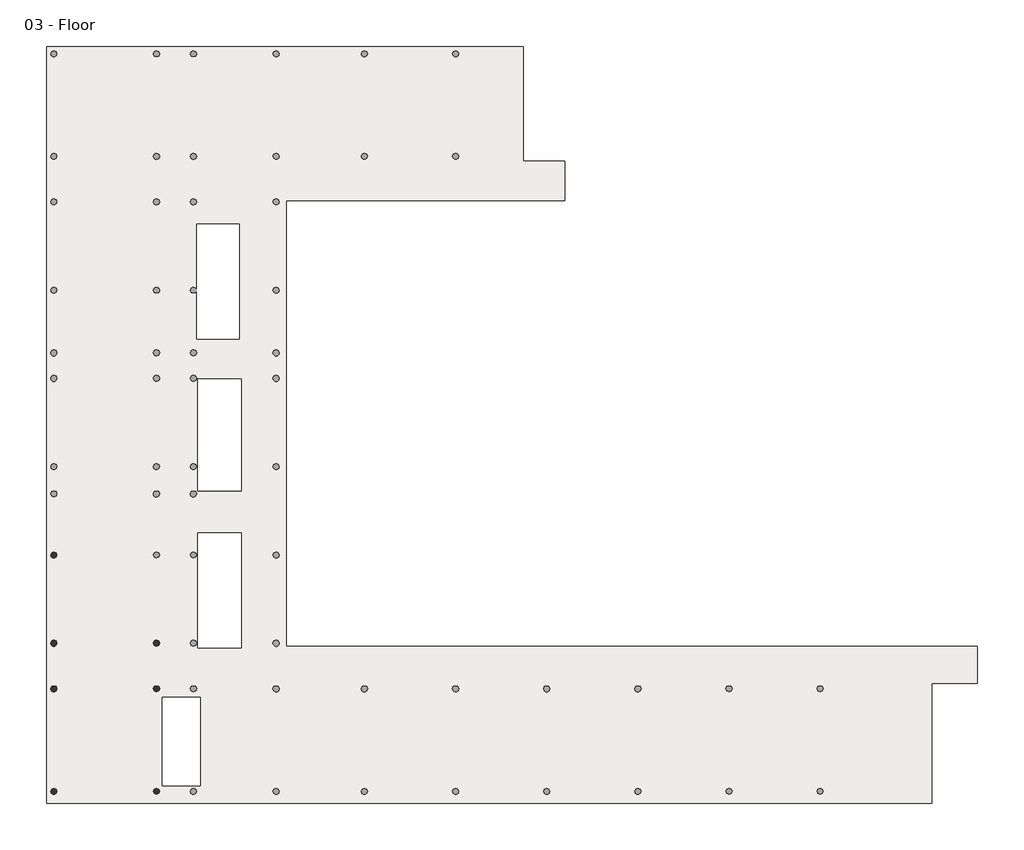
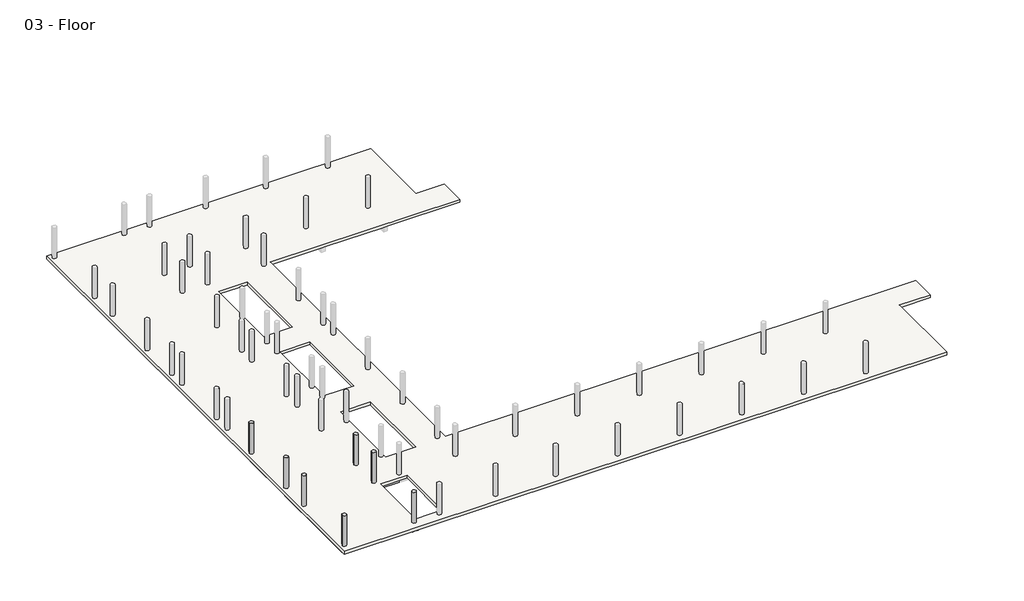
# One storey, part 1 of 8: 16 beams, 7 columns, 1 slab.
"""IFC4 building model written with IfcOpenShell, lengths in millimetres."""

from ifc_helpers import new_model, si_unit, point, frame, frame_2d, origin, place, context, project, spatial, polyline, circle_curve, trimmed, segment, composite_curve, outline, extrude, faceted_brep, element, save
from ifc_brep_helpers import plane_surface, revolved_surface, advanced_brep

model = new_model("IFC4")

# Units and contexts
model_context = context("Model", 3, world=origin())
ifc_project = project(units=[si_unit("LENGTHUNIT", "METRE", prefix="MILLI")], contexts=[model_context])

# Site, building, storey
site = spatial("IfcSite", under=ifc_project)
building = spatial("IfcBuilding", under=site)
storey = spatial("IfcBuildingStorey", under=building, Name="03 - Floor", Elevation=7600.0)

# Beams
placement = place(None, origin())
element("IfcBeam", 1, ObjectType="M_Concrete-Rectangular Beam : 400 x 800mm", at=placement, inside=storey, context=model_context, shape_type="SweptSolid", body=[
    extrude(outline(composite_curve([segment(trimmed(circle_curve(frame_2d((-9201.9994416, -5769.4613801)), 225.0), [point((-9401.9994416, -5872.5390207))], [point((-9098.921801, -5969.4613801))], True, "CARTESIAN"), True, "CONTINUOUS"), segment(polyline([(-9098.921801, -5969.4613801), (-9001.9994416, -5969.4613801), (-9001.9994416, -11965.5837394)]), True, "CONTINUOUS"), segment(trimmed(circle_curve(frame_2d((-9201.9994416, -12068.6613801)), 225.0), [point((-9001.9994416, -11965.5837394))], [point((-9401.9994416, -11965.5837394))], True, "CARTESIAN"), True, "CONTINUOUS"), segment(polyline([(-9401.9994416, -11965.5837394), (-9401.9994416, -5872.5390207)]), True, "CONTINUOUS")], self_intersect=False)), frame((0.0, 0.0, 6800.0), z_axis=(0.0, 0.0, 1.0), x_axis=(1.0, 0.0, 0.0)), (0.0, 0.0, 1.0), 500.0),
])
element("IfcBeam", 2, ObjectType="M_Concrete-Rectangular Beam : 400 x 800mm", at=placement, inside=storey, context=model_context, shape_type="AdvancedBrep", body=[
    advanced_brep(
    [(-9401.9994416, -12171.7390207, 6800.0), (-9401.9994416, -15216.7837394, 6800.0), (-9401.9994416, -15216.7837394, 7300.0), (-9401.9994416, -12171.7390207, 7300.0), (-9001.9994416, -12171.7390207, 6800.0), (-9001.9994416, -15119.8613801, 6800.0), (-9001.9994416, -15216.7837394, 6800.0), (-9001.9994416, -12171.7390207, 7300.0), (-9001.9994416, -15119.8613801, 7300.0), (-9001.9994416, -15216.7837394, 7300.0)],
    [
        (0, 1),
        (1, 2),
        (2, 3),
        (3, 0),
        (0, 4, circle_curve(frame((-9201.9994416, -12068.6613801, 6800.0), z_axis=(0.0, 0.0, 1.0), x_axis=(-1.0, 0.0, 0.0)), 225.0)),
        (4, 5),
        (5, 6),
        (6, 1, circle_curve(frame((-9201.9994416, -15319.8613801, 6800.0), z_axis=(0.0, 0.0, 1.0), x_axis=(-1.0, 0.0, 0.0)), 225.0)),
        (4, 7),
        (7, 8),
        (8, 9),
        (9, 6),
        (3, 7, circle_curve(frame((-9201.9994416, -12068.6613801, 7300.0), z_axis=(0.0, 0.0, 1.0), x_axis=(-1.0, 0.0, 0.0)), 225.0)),
        (9, 2, circle_curve(frame((-9201.9994416, -15319.8613801, 7300.0), z_axis=(0.0, 0.0, 1.0), x_axis=(-1.0, 0.0, 0.0)), 225.0)),
    ],
    [
        plane_surface(frame((-9401.9994416, -15082.1613801, 7200.0), z_axis=(-1.0, 0.0, 0.0), x_axis=(0.0, 0.0, -1.0))),
        plane_surface(frame((-9201.9994416, -15082.1613801, 6800.0), z_axis=(0.0, 0.0, -1.0), x_axis=(1.0, 0.0, 0.0))),
        plane_surface(frame((-9001.9994416, -15082.1613801, 7200.0), z_axis=(1.0, 0.0, 0.0), x_axis=(0.0, 0.0, 1.0))),
        revolved_surface(polyline([(-9426.9994416, -12068.6613801, 7300.0), (-9426.9994416, -12068.6613801, 6800.0)]), (-9201.9994416, -12068.6613801, 3800.0), (0.0, 0.0, 1.0)),
        revolved_surface(polyline([(-9426.9994416, -15319.8613801, 7300.0), (-9426.9994416, -15319.8613801, 6800.0)]), (-9201.9994416, -15319.8613801, 3800.0), (0.0, 0.0, 1.0)),
        plane_surface(frame((24268.8999097, 30514.0407562, 7300.0), z_axis=(0.0, 0.0, 1.0), x_axis=(0.0, -1.0, 0.0))),
    ],
    [
        (0, [[1, 2, 3, 4]]),
        (1, [[5, 6, 7, 8, -1]]),
        (2, [[-7, -6, 9, 10, 11, 12]]),
        (3, [[-5, -4, 13, -9]]),
        (4, [[-8, -12, 14, -2]]),
        (5, [[-3, -14, -11, -10, -13]]),
    ],
),
])
element("IfcBeam", 3, ObjectType="M_Concrete-Rectangular Beam : 400 x 800mm", at=placement, inside=storey, context=model_context, shape_type="AdvancedBrep", body=[
    advanced_brep(
    [(-9401.9994416, -15422.9390207, 6800.0), (-9401.9994416, -22531.9837394, 6800.0), (-9401.9994416, -22531.9837394, 7300.0), (-9401.9994416, -15422.9390207, 7300.0), (-9098.921801, -15519.8613801, 6800.0), (-9001.9994416, -15519.8613801, 6800.0), (-9001.9994416, -16948.6613801, 6800.0), (-9001.9994416, -17348.6613801, 6800.0), (-9001.9994416, -18777.4613801, 6800.0), (-9001.9994416, -19177.4613801, 6800.0), (-9001.9994416, -20606.2613801, 6800.0), (-9001.9994416, -21006.2613801, 6800.0), (-9001.9994416, -22435.0613801, 6800.0), (-9001.9994416, -22531.9837394, 6800.0), (-9001.9994416, -15519.8613801, 7300.0), (-9001.9994416, -16948.6613801, 7300.0), (-9001.9994416, -17348.6613801, 7300.0), (-9001.9994416, -18777.4613801, 7300.0), (-9001.9994416, -19177.4613801, 7300.0), (-9001.9994416, -20606.2613801, 7300.0), (-9001.9994416, -21006.2613801, 7300.0), (-9001.9994416, -22435.0613801, 7300.0), (-9001.9994416, -22531.9837394, 7300.0), (-9098.921801, -15519.8613801, 7300.0)],
    [
        (0, 1),
        (1, 2),
        (2, 3),
        (3, 0),
        (0, 4, circle_curve(frame((-9201.9994416, -15319.8613801, 6800.0), z_axis=(0.0, 0.0, 1.0), x_axis=(-1.0, 0.0, 0.0)), 225.0)),
        (4, 5),
        (5, 6),
        (6, 7),
        (7, 8),
        (8, 9),
        (9, 10),
        (10, 11),
        (11, 12),
        (12, 13),
        (13, 1, circle_curve(frame((-9201.9994416, -22635.0613801, 6800.0), z_axis=(0.0, 0.0, 1.0), x_axis=(-1.0, 0.0, 0.0)), 225.0)),
        (5, 14),
        (14, 15),
        (15, 16),
        (16, 17),
        (17, 18),
        (18, 19),
        (19, 20),
        (20, 21),
        (21, 22),
        (22, 13),
        (3, 23, circle_curve(frame((-9201.9994416, -15319.8613801, 7300.0), z_axis=(0.0, 0.0, 1.0), x_axis=(-1.0, 0.0, 0.0)), 225.0)),
        (23, 4),
        (23, 14),
        (22, 2, circle_curve(frame((-9201.9994416, -22635.0613801, 7300.0), z_axis=(0.0, 0.0, 1.0), x_axis=(-1.0, 0.0, 0.0)), 225.0)),
    ],
    [
        plane_surface(frame((-9401.9994416, -22397.3613801, 7600.0), z_axis=(-1.0, 0.0, 0.0), x_axis=(0.0, 1.0, 0.0))),
        plane_surface(frame((-9401.9994416, -22397.3613801, 6800.0), z_axis=(0.0, 0.0, -1.0), x_axis=(0.0, 1.0, 0.0))),
        plane_surface(frame((-9001.9994416, -22397.3613801, 6800.0), z_axis=(1.0, 0.0, 0.0), x_axis=(0.0, 1.0, 0.0))),
        revolved_surface(polyline([(-9426.9994416, -15319.8613801, 7300.0), (-9426.9994416, -15319.8613801, 6800.0)]), (-9201.9994416, -15319.8613801, 3800.0), (0.0, 0.0, 1.0)),
        plane_surface(frame((-8964.2994416, -15519.8613801, 6800.0), z_axis=(0.0, 1.0, 0.0), x_axis=(1.0, 0.0, 0.0))),
        revolved_surface(polyline([(-9426.9994416, -22635.0613801, 7300.0), (-9426.9994416, -22635.0613801, 6800.0)]), (-9201.9994416, -22635.0613801, 3800.0), (0.0, 0.0, 1.0)),
        plane_surface(frame((24268.8999097, 30514.0407562, 7300.0), z_axis=(0.0, 0.0, 1.0), x_axis=(0.0, -1.0, 0.0))),
    ],
    [
        (0, [[1, 2, 3, 4]]),
        (1, [[5, 6, 7, 8, 9, 10, 11, 12, 13, 14, 15, -1]]),
        (2, [[-14, -13, -12, -11, -10, -9, -8, -7, 16, 17, 18, 19, 20, 21, 22, 23, 24, 25]]),
        (3, [[-5, -4, 26, 27]]),
        (4, [[-6, -27, 28, -16]]),
        (5, [[-15, -25, 29, -2]]),
        (6, [[-3, -29, -24, -23, -22, -21, -20, -19, -18, -17, -28, -26]]),
    ],
),
])
element("IfcBeam", 4, ObjectType="M_Concrete-Rectangular Beam : 400 x 800mm", at=placement, inside=storey, context=model_context, shape_type="AdvancedBrep", body=[
    advanced_brep(
    [(554.8005584, -11868.6613801, 6800.0), (-1586.7994416, -11868.6613801, 6800.0), (-1586.7994416, -11868.6613801, 7300.0), (554.8005584, -11868.6613801, 7300.0), (554.8005584, -11965.5837394, 6800.0), (529.8005584, -12068.6613801, 6800.0), (651.7229178, -12268.6613801, 6800.0), (554.8005584, -12268.6613801, 6800.0), (-1586.7994416, -12268.6613801, 6800.0), (651.7229178, -12268.6613801, 7300.0), (554.8005584, -12268.6613801, 7300.0), (-1586.7994416, -12268.6613801, 7300.0), (554.8005584, -11965.5837394, 7300.0), (529.8005584, -12068.6613801, 7300.0)],
    [
        (0, 1),
        (1, 2),
        (2, 3),
        (3, 0),
        (0, 4),
        (4, 5, circle_curve(frame((754.8005584, -12068.6613801, 6800.0), z_axis=(0.0, 0.0, 1.0), x_axis=(-1.0, 0.0, 0.0)), 225.0)),
        (5, 6, circle_curve(frame((754.8005584, -12068.6613801, 6800.0), z_axis=(0.0, 0.0, 1.0), x_axis=(-1.0, 0.0, 0.0)), 225.0)),
        (6, 7),
        (7, 8),
        (8, 1),
        (6, 9),
        (9, 10),
        (10, 11),
        (11, 8),
        (3, 12),
        (12, 4),
        (5, 13),
        (13, 9, circle_curve(frame((754.8005584, -12068.6613801, 7300.0), z_axis=(0.0, 0.0, 1.0), x_axis=(-1.0, 0.0, 0.0)), 225.0)),
        (12, 13, circle_curve(frame((754.8005584, -12068.6613801, 7300.0), z_axis=(0.0, 0.0, 1.0), x_axis=(-1.0, 0.0, 0.0)), 225.0)),
        (11, 2),
    ],
    [
        plane_surface(frame((-1649.0994416, -11868.6613801, 7200.0), z_axis=(0.0, 1.0, 0.0), x_axis=(0.0, 0.0, -1.0))),
        plane_surface(frame((-1649.0994416, -12068.6613801, 6800.0), z_axis=(0.0, 0.0, -1.0), x_axis=(0.0, -1.0, 0.0))),
        plane_surface(frame((-1649.0994416, -12268.6613801, 7200.0), z_axis=(0.0, -1.0, 0.0), x_axis=(0.0, 0.0, 1.0))),
        plane_surface(frame((554.8005584, -11830.9613801, 7200.0), z_axis=(1.0, 0.0, 0.0), x_axis=(0.0, 0.0, -1.0))),
        revolved_surface(polyline([(529.8005584, -12068.6613801, 7300.0), (529.8005584, -12068.6613801, 6800.0)]), (754.8005584, -12068.6613801, 3800.0), (0.0, 0.0, 1.0)),
        plane_surface(frame((-1586.7994416, -11830.9613801, 7150.0), z_axis=(-1.0, 0.0, 0.0), x_axis=(0.0, 0.0, 1.0))),
        plane_surface(frame((24268.8999097, 30514.0407562, 7300.0), z_axis=(0.0, 0.0, 1.0), x_axis=(0.0, -1.0, 0.0))),
    ],
    [
        (0, [[1, 2, 3, 4]]),
        (1, [[5, 6, 7, 8, 9, 10, -1]]),
        (2, [[-9, -8, 11, 12, 13, 14]]),
        (3, [[-5, -4, 15, 16]]),
        (4, [[-7, 17, 18, -11]]),
        (4, [[-6, -16, 19, -17]]),
        (5, [[-10, -14, 20, -2]]),
        (6, [[-3, -20, -13, -12, -18, -19, -15]]),
    ],
),
])
element("IfcBeam", 5, ObjectType="M_Concrete-Rectangular Beam : 400 x 800mm", at=placement, inside=storey, context=model_context, shape_type="SweptSolid", body=[
    extrude(outline(composite_curve([segment(polyline([(554.8005584, -15119.8613801), (554.8005584, -15216.7837394)]), True, "CONTINUOUS"), segment(trimmed(circle_curve(frame_2d((754.8005584, -15319.8613801)), 225.0), [point((554.8005584, -15216.7837394))], [point((529.8005584, -15319.8613801))], True, "CARTESIAN"), True, "CONTINUOUS"), segment(trimmed(circle_curve(frame_2d((754.8005584, -15319.8613801)), 225.0), [point((529.8005584, -15319.8613801))], [point((651.7229178, -15519.8613801))], True, "CARTESIAN"), True, "CONTINUOUS"), segment(polyline([(651.7229178, -15519.8613801), (-1586.7994416, -15519.8613801), (-1586.7994416, -15119.8613801), (554.8005584, -15119.8613801)]), True, "CONTINUOUS")], self_intersect=False)), frame((0.0, 0.0, 6800.0), z_axis=(0.0, 0.0, 1.0), x_axis=(1.0, 0.0, 0.0)), (0.0, 0.0, 1.0), 500.0),
])
element("IfcBeam", 6, ObjectType="M_Concrete-Rectangular Beam : 400 x 800mm", at=placement, inside=storey, context=model_context, shape_type="AdvancedBrep", body=[
    advanced_brep(
    [(-2186.7994416, -15119.8613801, 6800.0), (-3515.5994416, -15119.8613801, 6800.0), (-3915.5994416, -15119.8613801, 6800.0), (-5344.3994416, -15119.8613801, 6800.0), (-5744.3994416, -15119.8613801, 6800.0), (-7173.1994416, -15119.8613801, 6800.0), (-7573.1994416, -15119.8613801, 6800.0), (-9001.9994416, -15119.8613801, 6800.0), (-9001.9994416, -15119.8613801, 7300.0), (-7573.1994416, -15119.8613801, 7300.0), (-7173.1994416, -15119.8613801, 7300.0), (-5744.3994416, -15119.8613801, 7300.0), (-5344.3994416, -15119.8613801, 7300.0), (-3915.5994416, -15119.8613801, 7300.0), (-3515.5994416, -15119.8613801, 7300.0), (-2186.7994416, -15119.8613801, 7300.0), (-9001.9994416, -15216.7837394, 6800.0), (-2186.7994416, -15519.8613801, 6800.0), (-9001.9994416, -15519.8613801, 6800.0), (-9098.921801, -15519.8613801, 6800.0), (-8976.9994416, -15319.8613801, 6800.0), (-2186.7994416, -15519.8613801, 7300.0), (-9001.9994416, -15519.8613801, 7300.0), (-9098.921801, -15519.8613801, 7300.0), (-9001.9994416, -15216.7837394, 7300.0), (-8976.9994416, -15319.8613801, 7300.0)],
    [
        (0, 1),
        (1, 2),
        (2, 3),
        (3, 4),
        (4, 5),
        (5, 6),
        (6, 7),
        (7, 8),
        (8, 9),
        (9, 10),
        (10, 11),
        (11, 12),
        (12, 13),
        (13, 14),
        (14, 15),
        (15, 0),
        (16, 7),
        (0, 17),
        (17, 18),
        (18, 19),
        (19, 20, circle_curve(frame((-9201.9994416, -15319.8613801, 6800.0), z_axis=(0.0, 0.0, 1.0), x_axis=(-1.0, 0.0, 0.0)), 225.0)),
        (20, 16, circle_curve(frame((-9201.9994416, -15319.8613801, 6800.0), z_axis=(0.0, 0.0, 1.0), x_axis=(-1.0, 0.0, 0.0)), 225.0)),
        (17, 21),
        (21, 22),
        (22, 23),
        (23, 19),
        (16, 24),
        (24, 8),
        (23, 25, circle_curve(frame((-9201.9994416, -15319.8613801, 7300.0), z_axis=(0.0, 0.0, 1.0), x_axis=(-1.0, 0.0, 0.0)), 225.0)),
        (25, 20),
        (25, 24, circle_curve(frame((-9201.9994416, -15319.8613801, 7300.0), z_axis=(0.0, 0.0, 1.0), x_axis=(-1.0, 0.0, 0.0)), 225.0)),
        (15, 21),
    ],
    [
        plane_surface(frame((-8964.2994416, -15119.8613801, 7600.0), z_axis=(0.0, 1.0, 0.0), x_axis=(1.0, 0.0, 0.0))),
        plane_surface(frame((-8964.2994416, -15119.8613801, 6800.0), z_axis=(0.0, 0.0, -1.0), x_axis=(1.0, 0.0, 0.0))),
        plane_surface(frame((-8964.2994416, -15519.8613801, 6800.0), z_axis=(0.0, -1.0, 0.0), x_axis=(1.0, 0.0, 0.0))),
        plane_surface(frame((-9001.9994416, -15082.1613801, 7200.0), z_axis=(-1.0, 0.0, 0.0), x_axis=(0.0, 0.0, 1.0))),
        revolved_surface(polyline([(-9426.9994416, -15319.8613801, 7300.0), (-9426.9994416, -15319.8613801, 6800.0)]), (-9201.9994416, -15319.8613801, 3800.0), (0.0, 0.0, 1.0)),
        plane_surface(frame((-2186.7994416, -15095.9322965, 6700.0), z_axis=(1.0, 0.0, 0.0), x_axis=(0.0, -1.0, 0.0))),
        plane_surface(frame((24268.8999097, 30514.0407562, 7300.0), z_axis=(0.0, 0.0, 1.0), x_axis=(0.0, -1.0, 0.0))),
    ],
    [
        (0, [[1, 2, 3, 4, 5, 6, 7, 8, 9, 10, 11, 12, 13, 14, 15, 16]]),
        (1, [[17, -7, -6, -5, -4, -3, -2, -1, 18, 19, 20, 21, 22]]),
        (2, [[-20, -19, 23, 24, 25, 26]]),
        (3, [[-17, 27, 28, -8]]),
        (4, [[-21, -26, 29, 30]]),
        (4, [[-22, -30, 31, -27]]),
        (5, [[-18, -16, 32, -23]]),
        (6, [[-15, -14, -13, -12, -11, -10, -9, -28, -31, -29, -25, -24, -32]]),
    ],
),
])
element("IfcBeam", 7, ObjectType="M_Concrete-Rectangular Beam : 400 x 800mm", at=placement, inside=storey, context=model_context, shape_type="SweptSolid", body=[
    extrude(outline(composite_curve([segment(polyline([(-9001.9994416, -22531.9837394), (-9001.9994416, -22435.0613801), (-2186.7994416, -22435.0613801), (-2186.7994416, -22835.0613801), (-9098.921801, -22835.0613801)]), True, "CONTINUOUS"), segment(trimmed(circle_curve(frame_2d((-9201.9994416, -22635.0613801)), 225.0), [point((-9098.921801, -22835.0613801))], [point((-8976.9994416, -22635.0613801))], True, "CARTESIAN"), True, "CONTINUOUS"), segment(trimmed(circle_curve(frame_2d((-9201.9994416, -22635.0613801)), 225.0), [point((-8976.9994416, -22635.0613801))], [point((-9001.9994416, -22531.9837394))], True, "CARTESIAN"), True, "CONTINUOUS")], self_intersect=False)), frame((0.0, 0.0, 6800.0), z_axis=(0.0, 0.0, 1.0), x_axis=(1.0, 0.0, 0.0)), (0.0, 0.0, 1.0), 500.0),
])
element("IfcBeam", 8, ObjectType="M_Concrete-Rectangular Beam : 400 x 800mm", at=placement, inside=storey, context=model_context, shape_type="SweptSolid", body=[
    extrude(outline(polyline([(-9001.9994416, -21006.2613801), (-9001.9994416, -20606.2613801), (-2186.7994416, -20606.2613801), (-2186.7994416, -21006.2613801), (-9001.9994416, -21006.2613801)])), frame((0.0, 0.0, 6800.0), z_axis=(0.0, 0.0, 1.0), x_axis=(1.0, 0.0, 0.0)), (0.0, 0.0, 1.0), 500.0),
])
element("IfcBeam", 9, ObjectType="M_Concrete-Rectangular Beam : 400 x 800mm", at=placement, inside=storey, context=model_context, shape_type="SweptSolid", body=[
    extrude(outline(polyline([(-9001.9994416, -19177.4613801), (-9001.9994416, -18777.4613801), (-2186.7994416, -18777.4613801), (-2186.7994416, -19177.4613801), (-9001.9994416, -19177.4613801)])), frame((0.0, 0.0, 6800.0), z_axis=(0.0, 0.0, 1.0), x_axis=(1.0, 0.0, 0.0)), (0.0, 0.0, 1.0), 500.0),
])
element("IfcBeam", 10, ObjectType="M_Concrete-Rectangular Beam : 400 x 800mm", at=placement, inside=storey, context=model_context, shape_type="SweptSolid", body=[
    extrude(outline(polyline([(-9001.9994416, -17348.6613801), (-9001.9994416, -16948.6613801), (-2186.7994416, -16948.6613801), (-2186.7994416, -17348.6613801), (-9001.9994416, -17348.6613801)])), frame((0.0, 0.0, 6800.0), z_axis=(0.0, 0.0, 1.0), x_axis=(1.0, 0.0, 0.0)), (0.0, 0.0, 1.0), 500.0),
])
element("IfcBeam", 11, ObjectType="M_Concrete-Rectangular Beam : 400 x 800mm", at=placement, inside=storey, context=model_context, shape_type="SweptSolid", body=[
    extrude(outline(polyline([(-3915.5994416, -5969.4613801), (-3515.5994416, -5969.4613801), (-3515.5994416, -15119.8613801), (-3915.5994416, -15119.8613801), (-3915.5994416, -5969.4613801)])), frame((0.0, 0.0, 6800.0), z_axis=(0.0, 0.0, 1.0), x_axis=(1.0, 0.0, 0.0)), (0.0, 0.0, 1.0), 500.0),
])
element("IfcBeam", 12, ObjectType="M_Concrete-Rectangular Beam : 400 x 800mm", at=placement, inside=storey, context=model_context, shape_type="SweptSolid", body=[
    extrude(outline(polyline([(-5744.3994416, -5969.4613801), (-5344.3994416, -5969.4613801), (-5344.3994416, -15119.8613801), (-5744.3994416, -15119.8613801), (-5744.3994416, -5969.4613801)])), frame((0.0, 0.0, 6800.0), z_axis=(0.0, 0.0, 1.0), x_axis=(1.0, 0.0, 0.0)), (0.0, 0.0, 1.0), 500.0),
])
element("IfcBeam", 13, ObjectType="M_Concrete-Rectangular Beam : 400 x 800mm", at=placement, inside=storey, context=model_context, shape_type="SweptSolid", body=[
    extrude(outline(polyline([(-7573.1994416, -5969.4613801), (-7173.1994416, -5969.4613801), (-7173.1994416, -15119.8613801), (-7573.1994416, -15119.8613801), (-7573.1994416, -5969.4613801)])), frame((0.0, 0.0, 6800.0), z_axis=(0.0, 0.0, 1.0), x_axis=(1.0, 0.0, 0.0)), (0.0, 0.0, 1.0), 500.0),
])
element("IfcBeam", 14, ObjectType="M_Concrete-Rectangular Beam : 600 x 900", at=placement, inside=storey, context=model_context, shape_type="AdvancedBrep", body=[
    advanced_brep(
    [(-2186.7994416, -5969.4613801, 6700.0), (-2186.7994416, -12268.6613801, 6700.0), (-2186.7994416, -12268.6613801, 7300.0), (-2186.7994416, -5969.4613801, 7300.0), (-1989.8770822, -12268.6613801, 6700.0), (-1989.8770822, -5969.4613801, 6700.0), (-1783.721801, -5969.4613801, 6700.0), (-1586.7994416, -5969.4613801, 6700.0), (-1586.7994416, -12268.6613801, 6700.0), (-1783.721801, -12268.6613801, 6700.0), (-1661.7994416, -12068.6613801, 6700.0), (-2111.7994416, -12068.6613801, 6700.0), (-1586.7994416, -5969.4613801, 7300.0), (-1586.7994416, -11868.6613801, 7300.0), (-1586.7994416, -12268.6613801, 7300.0), (-1586.7994416, -12268.6613801, 6800.0), (-1783.721801, -12268.6613801, 7300.0), (-1989.8770822, -5969.4613801, 7300.0), (-1783.721801, -5969.4613801, 7300.0), (-2111.7994416, -12068.6613801, 7300.0), (-1989.8770822, -12268.6613801, 7300.0), (-1661.7994416, -12068.6613801, 7300.0)],
    [
        (0, 1),
        (1, 2),
        (2, 3),
        (3, 0),
        (4, 1),
        (0, 5),
        (5, 6, circle_curve(frame((-1886.7994416, -5769.4613801, 6700.0), z_axis=(0.0, 0.0, 1.0), x_axis=(-1.0, 0.0, 0.0)), 225.0)),
        (6, 7),
        (7, 8),
        (8, 9),
        (9, 10, circle_curve(frame((-1886.7994416, -12068.6613801, 6700.0), z_axis=(0.0, 0.0, 1.0), x_axis=(-1.0, 0.0, 0.0)), 225.0)),
        (10, 11, circle_curve(frame((-1886.7994416, -12068.6613801, 6700.0), z_axis=(0.0, 0.0, 1.0), x_axis=(-1.0, 0.0, 0.0)), 225.0)),
        (11, 4, circle_curve(frame((-1886.7994416, -12068.6613801, 6700.0), z_axis=(0.0, 0.0, 1.0), x_axis=(-1.0, 0.0, 0.0)), 225.0)),
        (7, 12),
        (12, 13),
        (13, 14),
        (14, 15),
        (15, 8),
        (14, 16),
        (16, 9),
        (5, 17),
        (17, 18, circle_curve(frame((-1886.7994416, -5769.4613801, 7300.0), z_axis=(0.0, 0.0, 1.0), x_axis=(-1.0, 0.0, 0.0)), 225.0)),
        (18, 6),
        (18, 12),
        (11, 19),
        (19, 20, circle_curve(frame((-1886.7994416, -12068.6613801, 7300.0), z_axis=(0.0, 0.0, 1.0), x_axis=(-1.0, 0.0, 0.0)), 225.0)),
        (20, 4),
        (10, 21),
        (21, 19, circle_curve(frame((-1886.7994416, -12068.6613801, 7300.0), z_axis=(0.0, 0.0, 1.0), x_axis=(-1.0, 0.0, 0.0)), 225.0)),
        (20, 2),
        (16, 21, circle_curve(frame((-1886.7994416, -12068.6613801, 7300.0), z_axis=(0.0, 0.0, 1.0), x_axis=(-1.0, 0.0, 0.0)), 225.0)),
        (3, 17),
    ],
    [
        plane_surface(frame((-2186.7994416, -11830.9613801, 7150.0), z_axis=(-1.0, 0.0, 0.0), x_axis=(0.0, 0.0, -1.0))),
        plane_surface(frame((-1886.7994416, -11830.9613801, 6700.0), z_axis=(0.0, 0.0, -1.0), x_axis=(1.0, 0.0, 0.0))),
        plane_surface(frame((-1586.7994416, -11830.9613801, 7150.0), z_axis=(1.0, 0.0, 0.0), x_axis=(0.0, 0.0, 1.0))),
        plane_surface(frame((-1562.8703581, -12268.6613801, 7600.0), z_axis=(0.0, -1.0, 0.0), x_axis=(-1.0, 0.0, 0.0))),
        revolved_surface(polyline([(-2111.7994416, -5769.4613801, 7300.0), (-2111.7994416, -5769.4613801, 6700.0)]), (-1886.7994416, -5769.4613801, 3800.0), (0.0, 0.0, 1.0)),
        plane_surface(frame((-1649.0994416, -5969.4613801, 7200.0), z_axis=(0.0, 1.0, 0.0), x_axis=(0.0, 0.0, 1.0))),
        revolved_surface(polyline([(-2111.7994416, -12068.6613801, 7300.0), (-2111.7994416, -12068.6613801, 6700.0)]), (-1886.7994416, -12068.6613801, 3800.0), (0.0, 0.0, 1.0)),
        plane_surface(frame((24268.8999097, 30514.0407562, 7300.0), z_axis=(0.0, 0.0, 1.0), x_axis=(0.0, -1.0, 0.0))),
    ],
    [
        (0, [[1, 2, 3, 4]]),
        (1, [[5, -1, 6, 7, 8, 9, 10, 11, 12, 13]]),
        (2, [[-9, 14, 15, 16, 17, 18]]),
        (3, [[-10, -18, -17, 19, 20]]),
        (4, [[-7, 21, 22, 23]]),
        (5, [[-8, -23, 24, -14]]),
        (6, [[-13, 25, 26, 27]]),
        (6, [[-12, 28, 29, -25]]),
        (3, [[-5, -27, 30, -2]]),
        (6, [[-11, -20, 31, -28]]),
        (5, [[-6, -4, 32, -21]]),
        (7, [[-3, -30, -26, -29, -31, -19, -16, -15, -24, -22, -32]]),
    ],
),
])
element("IfcBeam", 15, ObjectType="M_Concrete-Rectangular Beam : 600 x 900", at=placement, inside=storey, context=model_context, shape_type="AdvancedBrep", body=[
    advanced_brep(
    [(-2186.7994416, -12268.6613801, 6700.0), (-2186.7994416, -15519.8613801, 6700.0), (-2186.7994416, -15519.8613801, 6800.0), (-2186.7994416, -15519.8613801, 7300.0), (-2186.7994416, -15119.8613801, 7300.0), (-2186.7994416, -12268.6613801, 7300.0), (-1989.8770822, -12268.6613801, 6700.0), (-1783.721801, -12268.6613801, 6700.0), (-1586.7994416, -12268.6613801, 6700.0), (-1586.7994416, -15519.8613801, 6700.0), (-1783.721801, -15519.8613801, 6700.0), (-1661.7994416, -15319.8613801, 6700.0), (-2111.7994416, -15319.8613801, 6700.0), (-1989.8770822, -15519.8613801, 6700.0), (-1586.7994416, -12268.6613801, 7300.0), (-1586.7994416, -15119.8613801, 7300.0), (-1586.7994416, -15519.8613801, 7300.0), (-1586.7994416, -15519.8613801, 6800.0), (-1783.721801, -15519.8613801, 7300.0), (-1783.721801, -12268.6613801, 7300.0), (-1989.8770822, -12268.6613801, 7300.0), (-2111.7994416, -15319.8613801, 7300.0), (-1989.8770822, -15519.8613801, 7300.0), (-1661.7994416, -15319.8613801, 7300.0)],
    [
        (0, 1),
        (1, 2),
        (2, 3),
        (3, 4),
        (4, 5),
        (5, 0),
        (0, 6),
        (6, 7, circle_curve(frame((-1886.7994416, -12068.6613801, 6700.0), z_axis=(0.0, 0.0, 1.0), x_axis=(-1.0, 0.0, 0.0)), 225.0)),
        (7, 8),
        (8, 9),
        (9, 10),
        (10, 11, circle_curve(frame((-1886.7994416, -15319.8613801, 6700.0), z_axis=(0.0, 0.0, 1.0), x_axis=(-1.0, 0.0, 0.0)), 225.0)),
        (11, 12, circle_curve(frame((-1886.7994416, -15319.8613801, 6700.0), z_axis=(0.0, 0.0, 1.0), x_axis=(-1.0, 0.0, 0.0)), 225.0)),
        (12, 13, circle_curve(frame((-1886.7994416, -15319.8613801, 6700.0), z_axis=(0.0, 0.0, 1.0), x_axis=(-1.0, 0.0, 0.0)), 225.0)),
        (13, 1),
        (8, 14),
        (14, 15),
        (15, 16),
        (16, 17),
        (17, 9),
        (16, 18),
        (18, 10),
        (7, 19),
        (19, 14),
        (6, 20),
        (20, 19, circle_curve(frame((-1886.7994416, -12068.6613801, 7300.0), z_axis=(0.0, 0.0, 1.0), x_axis=(-1.0, 0.0, 0.0)), 225.0)),
        (5, 20),
        (12, 21),
        (21, 22, circle_curve(frame((-1886.7994416, -15319.8613801, 7300.0), z_axis=(0.0, 0.0, 1.0), x_axis=(-1.0, 0.0, 0.0)), 225.0)),
        (22, 13),
        (11, 23),
        (23, 21, circle_curve(frame((-1886.7994416, -15319.8613801, 7300.0), z_axis=(0.0, 0.0, 1.0), x_axis=(-1.0, 0.0, 0.0)), 225.0)),
        (22, 3),
        (18, 23, circle_curve(frame((-1886.7994416, -15319.8613801, 7300.0), z_axis=(0.0, 0.0, 1.0), x_axis=(-1.0, 0.0, 0.0)), 225.0)),
    ],
    [
        plane_surface(frame((-2186.7994416, -15082.1613801, 7150.0), z_axis=(-1.0, 0.0, 0.0), x_axis=(0.0, 0.0, -1.0))),
        plane_surface(frame((-1886.7994416, -15082.1613801, 6700.0), z_axis=(0.0, 0.0, -1.0), x_axis=(1.0, 0.0, 0.0))),
        plane_surface(frame((-1586.7994416, -15082.1613801, 7150.0), z_axis=(1.0, 0.0, 0.0), x_axis=(0.0, 0.0, 1.0))),
        plane_surface(frame((-1562.8703581, -15519.8613801, 7600.0), z_axis=(0.0, -1.0, 0.0), x_axis=(-1.0, 0.0, 0.0))),
        plane_surface(frame((-1649.0994416, -12268.6613801, 7200.0), z_axis=(0.0, 1.0, 0.0), x_axis=(0.0, 0.0, 1.0))),
        revolved_surface(polyline([(-2111.7994416, -12068.6613801, 7300.0), (-2111.7994416, -12068.6613801, 6700.0)]), (-1886.7994416, -12068.6613801, 3800.0), (0.0, 0.0, 1.0)),
        revolved_surface(polyline([(-2111.7994416, -15319.8613801, 7300.0), (-2111.7994416, -15319.8613801, 6700.0)]), (-1886.7994416, -15319.8613801, 3800.0), (0.0, 0.0, 1.0)),
        plane_surface(frame((24268.8999097, 30514.0407562, 7300.0), z_axis=(0.0, 0.0, 1.0), x_axis=(0.0, -1.0, 0.0))),
    ],
    [
        (0, [[1, 2, 3, 4, 5, 6]]),
        (1, [[-1, 7, 8, 9, 10, 11, 12, 13, 14, 15]]),
        (2, [[-10, 16, 17, 18, 19, 20]]),
        (3, [[-11, -20, -19, 21, 22]]),
        (4, [[-9, 23, 24, -16]]),
        (5, [[-8, 25, 26, -23]]),
        (4, [[-7, -6, 27, -25]]),
        (6, [[-14, 28, 29, 30]]),
        (6, [[-13, 31, 32, -28]]),
        (3, [[-15, -30, 33, -3, -2]]),
        (6, [[-12, -22, 34, -31]]),
        (7, [[-5, -4, -33, -29, -32, -34, -21, -18, -17, -24, -26, -27]]),
    ],
),
])
element("IfcBeam", 16, ObjectType="M_Concrete-Rectangular Beam : 600 x 900", at=placement, inside=storey, context=model_context, shape_type="AdvancedBrep", body=[
    advanced_brep(
    [(-2186.7994416, -15519.8613801, 6700.0), (-2186.7994416, -22835.0613801, 6700.0), (-2186.7994416, -22835.0613801, 6800.0), (-2186.7994416, -22835.0613801, 7300.0), (-2186.7994416, -22435.0613801, 7300.0), (-2186.7994416, -21006.2613801, 7300.0), (-2186.7994416, -20606.2613801, 7300.0), (-2186.7994416, -19177.4613801, 7300.0), (-2186.7994416, -18777.4613801, 7300.0), (-2186.7994416, -17348.6613801, 7300.0), (-2186.7994416, -16948.6613801, 7300.0), (-2186.7994416, -15519.8613801, 7300.0), (-1989.8770822, -15519.8613801, 6700.0), (-1783.721801, -15519.8613801, 6700.0), (-1586.7994416, -15519.8613801, 6700.0), (-1586.7994416, -22835.0613801, 6700.0), (-1783.721801, -22835.0613801, 6700.0), (-1661.7994416, -22635.0613801, 6700.0), (-2111.7994416, -22635.0613801, 6700.0), (-1989.8770822, -22835.0613801, 6700.0), (-1586.7994416, -15519.8613801, 7300.0), (-1586.7994416, -22435.0613801, 7300.0), (-1586.7994416, -22835.0613801, 7300.0), (-1586.7994416, -22835.0613801, 6800.0), (-1783.721801, -22835.0613801, 7300.0), (-1783.721801, -15519.8613801, 7300.0), (-1989.8770822, -15519.8613801, 7300.0), (-2111.7994416, -22635.0613801, 7300.0), (-1989.8770822, -22835.0613801, 7300.0), (-1661.7994416, -22635.0613801, 7300.0)],
    [
        (0, 1),
        (1, 2),
        (2, 3),
        (3, 4),
        (4, 5),
        (5, 6),
        (6, 7),
        (7, 8),
        (8, 9),
        (9, 10),
        (10, 11),
        (11, 0),
        (0, 12),
        (12, 13, circle_curve(frame((-1886.7994416, -15319.8613801, 6700.0), z_axis=(0.0, 0.0, 1.0), x_axis=(-1.0, 0.0, 0.0)), 225.0)),
        (13, 14),
        (14, 15),
        (15, 16),
        (16, 17, circle_curve(frame((-1886.7994416, -22635.0613801, 6700.0), z_axis=(0.0, 0.0, 1.0), x_axis=(-1.0, 0.0, 0.0)), 225.0)),
        (17, 18, circle_curve(frame((-1886.7994416, -22635.0613801, 6700.0), z_axis=(0.0, 0.0, 1.0), x_axis=(-1.0, 0.0, 0.0)), 225.0)),
        (18, 19, circle_curve(frame((-1886.7994416, -22635.0613801, 6700.0), z_axis=(0.0, 0.0, 1.0), x_axis=(-1.0, 0.0, 0.0)), 225.0)),
        (19, 1),
        (14, 20),
        (20, 21),
        (21, 22),
        (22, 23),
        (23, 15),
        (22, 24),
        (24, 16),
        (13, 25),
        (25, 20),
        (12, 26),
        (26, 25, circle_curve(frame((-1886.7994416, -15319.8613801, 7300.0), z_axis=(0.0, 0.0, 1.0), x_axis=(-1.0, 0.0, 0.0)), 225.0)),
        (11, 26),
        (18, 27),
        (27, 28, circle_curve(frame((-1886.7994416, -22635.0613801, 7300.0), z_axis=(0.0, 0.0, 1.0), x_axis=(-1.0, 0.0, 0.0)), 225.0)),
        (28, 19),
        (17, 29),
        (29, 27, circle_curve(frame((-1886.7994416, -22635.0613801, 7300.0), z_axis=(0.0, 0.0, 1.0), x_axis=(-1.0, 0.0, 0.0)), 225.0)),
        (28, 3),
        (24, 29, circle_curve(frame((-1886.7994416, -22635.0613801, 7300.0), z_axis=(0.0, 0.0, 1.0), x_axis=(-1.0, 0.0, 0.0)), 225.0)),
    ],
    [
        plane_surface(frame((-2186.7994416, -22397.3613801, 7600.0), z_axis=(-1.0, 0.0, 0.0), x_axis=(0.0, 1.0, 0.0))),
        plane_surface(frame((-2186.7994416, -22397.3613801, 6700.0), z_axis=(0.0, 0.0, -1.0), x_axis=(0.0, 1.0, 0.0))),
        plane_surface(frame((-1586.7994416, -22397.3613801, 6700.0), z_axis=(1.0, 0.0, 0.0), x_axis=(0.0, 1.0, 0.0))),
        plane_surface(frame((-1562.8703581, -22835.0613801, 7600.0), z_axis=(0.0, -1.0, 0.0), x_axis=(-1.0, 0.0, 0.0))),
        plane_surface(frame((-1649.0994416, -15519.8613801, 7200.0), z_axis=(0.0, 1.0, 0.0), x_axis=(0.0, 0.0, 1.0))),
        revolved_surface(polyline([(-2111.7994416, -15319.8613801, 7300.0), (-2111.7994416, -15319.8613801, 6700.0)]), (-1886.7994416, -15319.8613801, 3800.0), (0.0, 0.0, 1.0)),
        revolved_surface(polyline([(-2111.7994416, -22635.0613801, 7300.0), (-2111.7994416, -22635.0613801, 6700.0)]), (-1886.7994416, -22635.0613801, 3800.0), (0.0, 0.0, 1.0)),
        plane_surface(frame((24268.8999097, 30514.0407562, 7300.0), z_axis=(0.0, 0.0, 1.0), x_axis=(0.0, -1.0, 0.0))),
    ],
    [
        (0, [[1, 2, 3, 4, 5, 6, 7, 8, 9, 10, 11, 12]]),
        (1, [[-1, 13, 14, 15, 16, 17, 18, 19, 20, 21]]),
        (2, [[-16, 22, 23, 24, 25, 26]]),
        (3, [[-17, -26, -25, 27, 28]]),
        (4, [[-15, 29, 30, -22]]),
        (5, [[-14, 31, 32, -29]]),
        (4, [[-13, -12, 33, -31]]),
        (6, [[-20, 34, 35, 36]]),
        (6, [[-19, 37, 38, -34]]),
        (3, [[-21, -36, 39, -3, -2]]),
        (6, [[-18, -28, 40, -37]]),
        (7, [[-11, -10, -9, -8, -7, -6, -5, -4, -39, -35, -38, -40, -27, -24, -23, -30, -32, -33]]),
    ],
),
])

# Columns
element("IfcColumn", 17, ObjectType="M_Concrete-Round-Column : 450mm", at=placement, inside=storey, context=model_context, shape_type="SweptSolid", body=[
    extrude(outline(composite_curve([segment(trimmed(circle_curve(frame_2d((-9201.9994416, -5769.4613801)), 225.0), [point((-8976.9994416, -5769.4613801))], [point((-9426.9994416, -5769.4613801))], False, "CARTESIAN"), True, "CONTINUOUS"), segment(trimmed(circle_curve(frame_2d((-9201.9994416, -5769.4613801)), 225.0), [point((-9426.9994416, -5769.4613801))], [point((-8976.9994416, -5769.4613801))], False, "CARTESIAN"), True, "CONTINUOUS")], self_intersect=False)), frame((0.0, 0.0, 7600.0), z_axis=(0.0, 0.0, 1.0), x_axis=(1.0, 0.0, 0.0)), (0.0, 0.0, 1.0), 3400.0),
])
element("IfcColumn", 18, ObjectType="M_Concrete-Round-Column : 450mm", at=placement, inside=storey, context=model_context, shape_type="SweptSolid", body=[
    extrude(outline(composite_curve([segment(trimmed(circle_curve(frame_2d((-9201.9994416, -12068.6613801)), 225.0), [point((-8976.9994416, -12068.6613801))], [point((-9426.9994416, -12068.6613801))], False, "CARTESIAN"), True, "CONTINUOUS"), segment(trimmed(circle_curve(frame_2d((-9201.9994416, -12068.6613801)), 225.0), [point((-9426.9994416, -12068.6613801))], [point((-8976.9994416, -12068.6613801))], False, "CARTESIAN"), True, "CONTINUOUS")], self_intersect=False)), frame((0.0, 0.0, 7600.0), z_axis=(0.0, 0.0, 1.0), x_axis=(1.0, 0.0, 0.0)), (0.0, 0.0, 1.0), 3400.0),
])
element("IfcColumn", 19, ObjectType="M_Concrete-Round-Column : 450mm", at=placement, inside=storey, context=model_context, shape_type="SweptSolid", body=[
    extrude(outline(composite_curve([segment(trimmed(circle_curve(frame_2d((-9201.9994416, -15319.8613801)), 225.0), [point((-8976.9994416, -15319.8613801))], [point((-9426.9994416, -15319.8613801))], False, "CARTESIAN"), True, "CONTINUOUS"), segment(trimmed(circle_curve(frame_2d((-9201.9994416, -15319.8613801)), 225.0), [point((-9426.9994416, -15319.8613801))], [point((-8976.9994416, -15319.8613801))], False, "CARTESIAN"), True, "CONTINUOUS")], self_intersect=False)), frame((0.0, 0.0, 7600.0), z_axis=(0.0, 0.0, 1.0), x_axis=(1.0, 0.0, 0.0)), (0.0, 0.0, 1.0), 3400.0),
])
element("IfcColumn", 20, ObjectType="M_Concrete-Round-Column : 450mm", at=placement, inside=storey, context=model_context, shape_type="SweptSolid", body=[
    extrude(outline(composite_curve([segment(trimmed(circle_curve(frame_2d((-9201.9994416, -22635.0613801)), 225.0), [point((-8976.9994416, -22635.0613801))], [point((-9426.9994416, -22635.0613801))], False, "CARTESIAN"), True, "CONTINUOUS"), segment(trimmed(circle_curve(frame_2d((-9201.9994416, -22635.0613801)), 225.0), [point((-9426.9994416, -22635.0613801))], [point((-8976.9994416, -22635.0613801))], False, "CARTESIAN"), True, "CONTINUOUS")], self_intersect=False)), frame((0.0, 0.0, 7600.0), z_axis=(0.0, 0.0, 1.0), x_axis=(1.0, 0.0, 0.0)), (0.0, 0.0, 1.0), 3400.0),
])
element("IfcColumn", 21, ObjectType="M_Concrete-Round-Column : 450mm", at=placement, inside=storey, context=model_context, shape_type="SweptSolid", body=[
    extrude(outline(composite_curve([segment(trimmed(circle_curve(frame_2d((-1886.7994416, -12068.6613801)), 225.0), [point((-1661.7994416, -12068.6613801))], [point((-2111.7994416, -12068.6613801))], False, "CARTESIAN"), True, "CONTINUOUS"), segment(trimmed(circle_curve(frame_2d((-1886.7994416, -12068.6613801)), 225.0), [point((-2111.7994416, -12068.6613801))], [point((-1661.7994416, -12068.6613801))], False, "CARTESIAN"), True, "CONTINUOUS")], self_intersect=False)), frame((0.0, 0.0, 7600.0), z_axis=(0.0, 0.0, 1.0), x_axis=(1.0, 0.0, 0.0)), (0.0, 0.0, 1.0), 3400.0),
])
element("IfcColumn", 22, ObjectType="M_Concrete-Round-Column : 450mm", at=placement, inside=storey, context=model_context, shape_type="SweptSolid", body=[
    extrude(outline(composite_curve([segment(trimmed(circle_curve(frame_2d((-1886.7994416, -15319.8613801)), 225.0), [point((-1661.7994416, -15319.8613801))], [point((-2111.7994416, -15319.8613801))], False, "CARTESIAN"), True, "CONTINUOUS"), segment(trimmed(circle_curve(frame_2d((-1886.7994416, -15319.8613801)), 225.0), [point((-2111.7994416, -15319.8613801))], [point((-1661.7994416, -15319.8613801))], False, "CARTESIAN"), True, "CONTINUOUS")], self_intersect=False)), frame((0.0, 0.0, 7600.0), z_axis=(0.0, 0.0, 1.0), x_axis=(1.0, 0.0, 0.0)), (0.0, 0.0, 1.0), 3400.0),
])
element("IfcColumn", 23, ObjectType="M_Concrete-Round-Column : 450mm", at=placement, inside=storey, context=model_context, shape_type="SweptSolid", body=[
    extrude(outline(composite_curve([segment(trimmed(circle_curve(frame_2d((-1886.7994416, -22635.0613801)), 225.0), [point((-1661.7994416, -22635.0613801))], [point((-2111.7994416, -22635.0613801))], False, "CARTESIAN"), True, "CONTINUOUS"), segment(trimmed(circle_curve(frame_2d((-1886.7994416, -22635.0613801)), 225.0), [point((-2111.7994416, -22635.0613801))], [point((-1661.7994416, -22635.0613801))], False, "CARTESIAN"), True, "CONTINUOUS")], self_intersect=False)), frame((0.0, 0.0, 7600.0), z_axis=(0.0, 0.0, 1.0), x_axis=(1.0, 0.0, 0.0)), (0.0, 0.0, 1.0), 3400.0),
])

# Slab
element("IfcSlab", 24, ObjectType="Generic Concrete 300mm", at=placement, inside=storey, context=model_context, shape_type="Brep", body=[
    faceted_brep([(24268.8999097, 30514.0407562, 7300.0), (24268.8999097, 30193.7386199, 7300.0), (24268.8999097, 29793.7386199, 7300.0), (24268.8999097, 22878.5386199, 7300.0), (24268.8999097, 22478.5386199, 7300.0), (24268.8999097, 22339.0407562, 7300.0), (27246.5321953, 22339.0407562, 7300.0), (27246.5321953, 19514.0407562, 7300.0), (19649.2005584, 19514.0407562, 7300.0), (19249.2005584, 19514.0407562, 7300.0), (13146.8005584, 19514.0407562, 7300.0), (12746.8005584, 19514.0407562, 7300.0), (7377.7005607, 19514.0407562, 7300.0), (7377.7005607, -12296.3611817, 7300.0), (12746.8005584, -12296.3611817, 7300.0), (13146.8005584, -12296.3611817, 7300.0), (19249.2005584, -12296.3611817, 7300.0), (19649.2005584, -12296.3611817, 7300.0), (25751.6005584, -12296.3611817, 7300.0), (26151.6005584, -12296.3611817, 7300.0), (32254.0005584, -12296.3611817, 7300.0), (32654.0005584, -12296.3611817, 7300.0), (38756.4005584, -12296.3611817, 7300.0), (39156.4005584, -12296.3611817, 7300.0), (45258.8005584, -12296.3611817, 7300.0), (45658.8005584, -12296.3611817, 7300.0), (56672.578114, -12296.3611817, 7300.0), (56672.578114, -14931.1613815, 7300.0), (53429.578114, -14931.1613815, 7300.0), (53429.578114, -15119.8613801, 7300.0), (53429.578114, -15519.8613801, 7300.0), (53429.578114, -22435.0613801, 7300.0), (53429.578114, -22835.0613801, 7300.0), (53429.578114, -23495.0613801, 7300.0), (-9722.2994393, -23495.0613801, 7300.0), (-9722.2994393, 30514.0407562, 7300.0), (4175.4703938, -4202.2107941, 7300.0), (1065.5703938, -4202.2107941, 7300.0), (1065.5703938, -12416.7107941, 7300.0), (4175.4703938, -12416.7107941, 7300.0), (4175.4703938, 6797.7892059, 7300.0), (1065.5703938, 6797.7892059, 7300.0), (1065.5703938, -1213.3613801, 7300.0), (4175.4703938, -1213.3613801, 7300.0), (4004.8005584, 17837.5399578, 7300.0), (1004.8005584, 17837.5399578, 7300.0), (1004.8005584, 9637.5399578, 7300.0), (4004.8005584, 9637.5399578, 7300.0), (1254.2005607, -15915.4113815, 7300.0), (-1485.7994393, -15915.4113815, 7300.0), (-1485.7994393, -22255.0613801, 7300.0), (1254.2005607, -22255.0613801, 7300.0), (24268.8999097, 22339.0407562, 7600.0), (24268.8999097, 30514.0407562, 7600.0), (-9722.2994393, 30514.0407562, 7600.0), (-9722.2994393, -23495.0613801, 7600.0), (53429.578114, -23495.0613801, 7600.0), (53429.578114, -14931.1613815, 7600.0), (56672.578114, -14931.1613815, 7600.0), (56672.578114, -12296.3611817, 7600.0), (7377.7005607, -12296.3611817, 7600.0), (7377.7005607, 19514.0407562, 7600.0), (27246.5321953, 19514.0407562, 7600.0), (27246.5321953, 22339.0407562, 7600.0), (1065.5703938, -4202.2107941, 7600.0), (4175.4703938, -4202.2107941, 7600.0), (4175.4703938, -12416.7107941, 7600.0), (1065.5703938, -12416.7107941, 7600.0), (1065.5703938, 6797.7892059, 7600.0), (4175.4703938, 6797.7892059, 7600.0), (4175.4703938, -1213.3613801, 7600.0), (1065.5703938, -1213.3613801, 7600.0), (1004.8005584, 17837.5399578, 7600.0), (4004.8005584, 17837.5399578, 7600.0), (4004.8005584, 9637.5399578, 7600.0), (1004.8005584, 9637.5399578, 7600.0), (-1485.7994393, -15915.4113815, 7600.0), (1254.2005607, -15915.4113815, 7600.0), (1254.2005607, -22255.0613801, 7600.0), (-1485.7994393, -22255.0613801, 7600.0)], [[[0, 1, 2, 3, 4, 5, 6, 7, 8, 9, 10, 11, 12, 13, 14, 15, 16, 17, 18, 19, 20, 21, 22, 23, 24, 25, 26, 27, 28, 29, 30, 31, 32, 33, 34, 35], [36, 37, 38, 39], [40, 41, 42, 43], [44, 45, 46, 47], [48, 49, 50, 51]], [[52, 53, 54, 55, 56, 57, 58, 59, 60, 61, 62, 63], [64, 65, 66, 67], [68, 69, 70, 71], [72, 73, 74, 75], [76, 77, 78, 79]], [[5, 4, 3, 2, 1, 0, 53, 52]], [[6, 5, 52, 63]], [[7, 6, 63, 62]], [[12, 11, 10, 9, 8, 7, 62, 61]], [[13, 12, 61, 60]], [[26, 25, 24, 23, 22, 21, 20, 19, 18, 17, 16, 15, 14, 13, 60, 59]], [[27, 26, 59, 58]], [[28, 27, 58, 57]], [[33, 32, 31, 30, 29, 28, 57, 56]], [[34, 33, 56, 55]], [[35, 34, 55, 54]], [[0, 35, 54, 53]], [[36, 65, 64, 37]], [[37, 64, 67, 38]], [[38, 67, 66, 39]], [[65, 36, 39, 66]], [[40, 69, 68, 41]], [[41, 68, 71, 42]], [[42, 71, 70, 43]], [[69, 40, 43, 70]], [[44, 73, 72, 45]], [[45, 72, 75, 46]], [[46, 75, 74, 47]], [[73, 44, 47, 74]], [[48, 77, 76, 49]], [[49, 76, 79, 50]], [[50, 79, 78, 51]], [[77, 48, 51, 78]]]),
])

save(model, "model.ifc")
